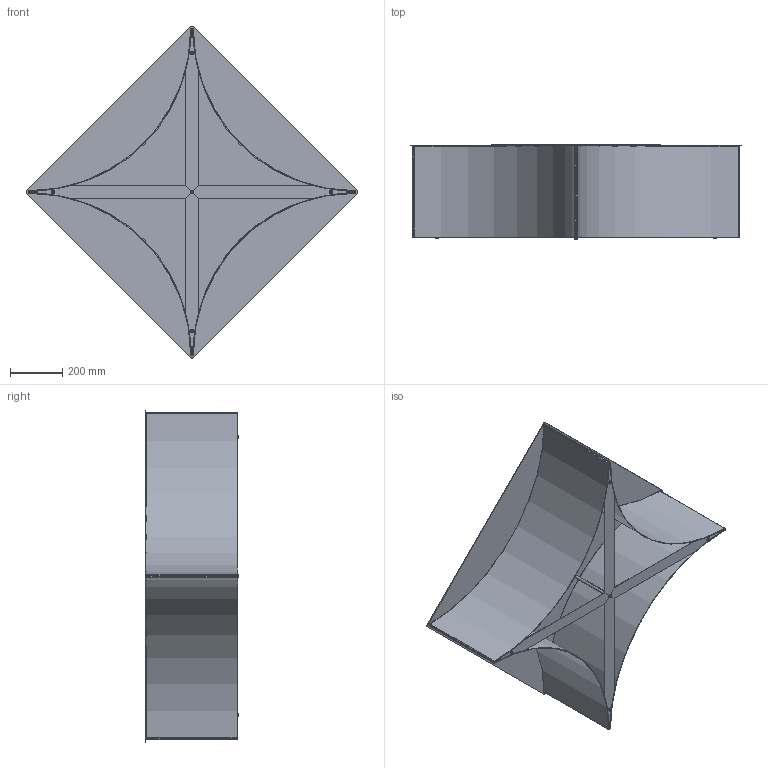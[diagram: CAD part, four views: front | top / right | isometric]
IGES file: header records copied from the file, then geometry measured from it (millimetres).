
Start section: SolidWorks IGES file using analytic representation for surfaces
Global section: file name: \\utenti\Dati Utenti\Tecnico\DC\2D - 3D per sito\3D\DeCastelli-3D-Alchemy 90.igs; native system: SolidWorks 2022; preprocessor: SolidWorks 2022; author: Simonep; date: 240729.120105; units: millimetre
Bounding box: 1267.82 x 358.05 x 1267.82 mm (x, y, z)
Surface area: 4891389.2 mm2 (no closed solid volume)
Topology: 0 solids, 0 shells, 139 faces, 1184 edges, 1176 vertices
Faces by surface type: bspline 87, revolution 52
